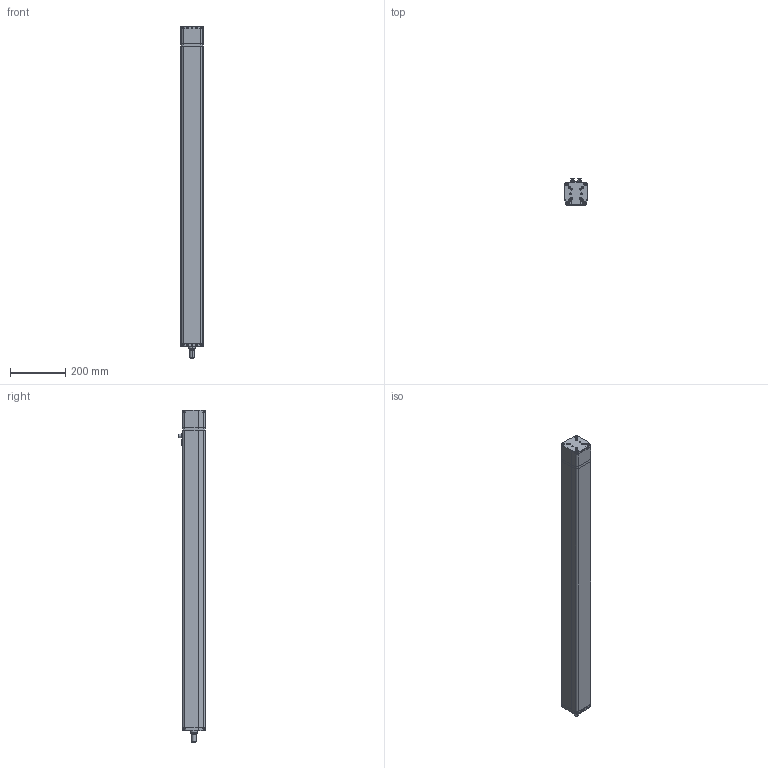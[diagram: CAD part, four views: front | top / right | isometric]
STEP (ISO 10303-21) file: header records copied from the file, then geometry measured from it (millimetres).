
FILE_DESCRIPTION (( 'STEP AP203' ), '1' );
FILE_NAME ('CTC-080-K__-____-_.step', '2023-09-29T09:49:18', ( '' ), ( '' ), 'SwSTEP 2.0', 'SolidWorks 2020', '' );
FILE_SCHEMA (( 'CONFIG_CONTROL_DESIGN' ));
Length unit declared in the file: millimetre
Products named in the file (4): CTC-080_Aufsatz-A_M16x1.5; CTC-080_housing_Hub_1000; CTC-080_Schubrohr_Hub 1000; CTC-080-K__-____-_
Assembly tree (3 placements, depth 2):
  CTC-080-K__-____-_
    CTC-080_housing_Hub_1000
    CTC-080_Schubrohr_Hub 1000
    CTC-080_Aufsatz-A_M16x1.5
Bounding box: 82 x 96.3 x 1204 mm (x, y, z)
Volume: 6596440.2 mm3; surface area: 784627.4 mm2
Topology: 30 solids, 30 shells, 796 faces, 1775 edges, 1093 vertices
Faces by surface type: cylinder 305, plane 297, cone 114, torus 72, sphere 8
Entity records: 22351 total; most frequent: DIRECTION 4147, CARTESIAN_POINT 3798, ORIENTED_EDGE 3486, EDGE_CURVE 1743, AXIS2_PLACEMENT_3D 1638, VERTEX_POINT 1093, EDGE_LOOP 890, VECTOR 871
